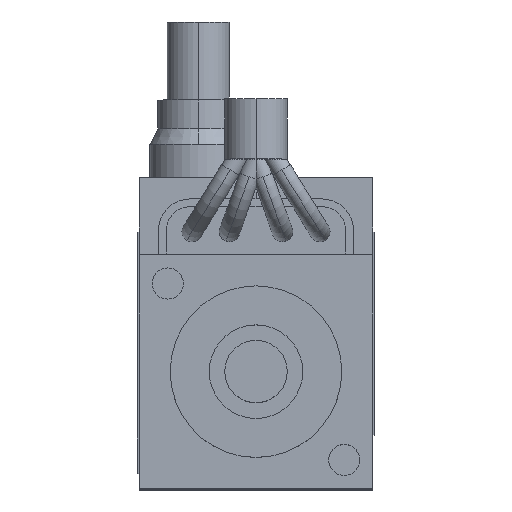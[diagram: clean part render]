
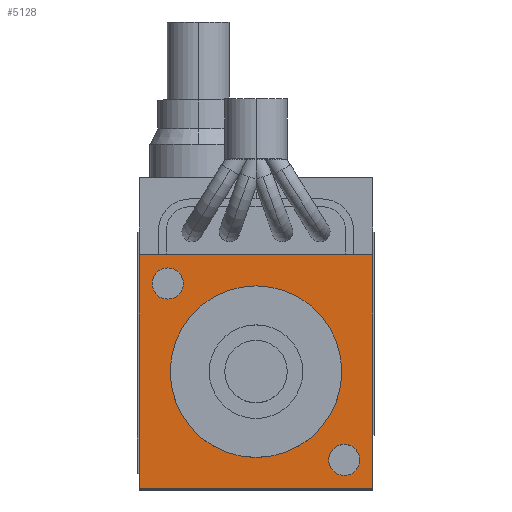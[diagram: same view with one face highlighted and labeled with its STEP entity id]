
A CAD part, top view. The second image highlights one B-rep face of the part: STEP entity #5128.
In plain terms, the highlighted planar face has unit normal (0, 0, 1).
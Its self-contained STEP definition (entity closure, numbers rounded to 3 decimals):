
#2411 = CARTESIAN_POINT ( 'NONE',  ( 6.657, -5.657, 0. ) ) ;
#2412 = DIRECTION ( 'NONE',  ( -1., 0., 0. ) ) ;
#2413 = DIRECTION ( 'NONE',  ( 0., 0., 1. ) ) ;
#2414 = CARTESIAN_POINT ( 'NONE',  ( 5.657, -5.657, 0. ) ) ;
#2415 = AXIS2_PLACEMENT_3D ( 'NONE', #2414, #2413, #2412 ) ;
#2416 = CIRCLE ( 'NONE', #2415, 1. ) ;
#2417 = CARTESIAN_POINT ( 'NONE',  ( 4.657, -5.657, 0. ) ) ;
#2454 = CARTESIAN_POINT ( 'NONE',  ( -6.657, 5.657, 0. ) ) ;
#2534 = CARTESIAN_POINT ( 'NONE',  ( 0., 5.5, 0. ) ) ;
#2535 = DIRECTION ( 'NONE',  ( 1., 0., 0. ) ) ;
#2536 = DIRECTION ( 'NONE',  ( 0., 0., 1. ) ) ;
#2537 = CARTESIAN_POINT ( 'NONE',  ( 0., 0., 0. ) ) ;
#2538 = AXIS2_PLACEMENT_3D ( 'NONE', #2537, #2536, #2535 ) ;
#2539 = CIRCLE ( 'NONE', #2538, 5.5 ) ;
#2540 = CARTESIAN_POINT ( 'NONE',  ( 0., -5.5, 0. ) ) ;
#2558 = CARTESIAN_POINT ( 'NONE',  ( -4.657, 5.657, 0. ) ) ;
#2559 = DIRECTION ( 'NONE',  ( 1., 0., 0. ) ) ;
#2560 = DIRECTION ( 'NONE',  ( 0., 0., 1. ) ) ;
#2561 = AXIS2_PLACEMENT_3D ( 'NONE', #2568, #2560, #2559 ) ;
#2562 = CIRCLE ( 'NONE', #2561, 1. ) ;
#2568 = CARTESIAN_POINT ( 'NONE',  ( -5.657, 5.657, 0. ) ) ;
#2661 = CARTESIAN_POINT ( 'NONE',  ( -7.5, 7.5, 0. ) ) ;
#2662 = DIRECTION ( 'NONE',  ( 0., -1., 0. ) ) ;
#2663 = VECTOR ( 'NONE', #2662, 1000. ) ;
#2664 = CARTESIAN_POINT ( 'NONE',  ( -7.5, 7.5, 0. ) ) ;
#2665 = LINE ( 'NONE', #2664, #2663 ) ;
#2666 = CARTESIAN_POINT ( 'NONE',  ( -7.5, -7.5, 0. ) ) ;
#3314 = CARTESIAN_POINT ( 'NONE',  ( 7.5, 7.5, 0. ) ) ;
#3315 = DIRECTION ( 'NONE',  ( -1., 0., 0. ) ) ;
#3316 = VECTOR ( 'NONE', #3315, 1000. ) ;
#3317 = CARTESIAN_POINT ( 'NONE',  ( -7.5, 7.5, 0. ) ) ;
#3318 = LINE ( 'NONE', #3317, #3316 ) ;
#3675 = DIRECTION ( 'NONE',  ( 1., 0., 0. ) ) ;
#3676 = VECTOR ( 'NONE', #3675, 1000. ) ;
#3677 = CARTESIAN_POINT ( 'NONE',  ( -7.5, -7.5, 0. ) ) ;
#3678 = LINE ( 'NONE', #3677, #3676 ) ;
#3720 = DIRECTION ( 'NONE',  ( 0., 0., 1. ) ) ;
#3721 = CARTESIAN_POINT ( 'NONE',  ( 0., 0., 0. ) ) ;
#3722 = AXIS2_PLACEMENT_3D ( 'NONE', #3721, #3720, #3784 ) ;
#3723 = CIRCLE ( 'NONE', #3722, 5.5 ) ;
#3724 = DIRECTION ( 'NONE',  ( 1., 0., 0. ) ) ;
#3725 = DIRECTION ( 'NONE',  ( 0., 0., 1. ) ) ;
#3726 = CARTESIAN_POINT ( 'NONE',  ( -5.657, 5.657, 0. ) ) ;
#3727 = AXIS2_PLACEMENT_3D ( 'NONE', #3726, #3725, #3724 ) ;
#3728 = CIRCLE ( 'NONE', #3727, 1. ) ;
#3729 = DIRECTION ( 'NONE',  ( -1., 0., 0. ) ) ;
#3730 = DIRECTION ( 'NONE',  ( 0., 0., 1. ) ) ;
#3731 = CARTESIAN_POINT ( 'NONE',  ( 5.657, -5.657, 0. ) ) ;
#3732 = AXIS2_PLACEMENT_3D ( 'NONE', #3731, #3730, #3729 ) ;
#3733 = CIRCLE ( 'NONE', #3732, 1. ) ;
#3734 = DIRECTION ( 'NONE',  ( 1., 0., 0. ) ) ;
#3735 = DIRECTION ( 'NONE',  ( 0., 0., 1. ) ) ;
#3736 = CARTESIAN_POINT ( 'NONE',  ( -7.5, -7.5, 0. ) ) ;
#3737 = AXIS2_PLACEMENT_3D ( 'NONE', #3736, #3735, #3734 ) ;
#3738 = PLANE ( 'NONE',  #3737 ) ;
#3739 = FACE_OUTER_BOUND ( 'NONE', #5141, .T. ) ;
#3740 = FACE_BOUND ( 'NONE', #5137, .T. ) ;
#3741 = FACE_BOUND ( 'NONE', #5133, .T. ) ;
#3742 = FACE_BOUND ( 'NONE', #5129, .T. ) ;
#3779 = CARTESIAN_POINT ( 'NONE',  ( 7.5, -7.5, 0. ) ) ;
#3780 = DIRECTION ( 'NONE',  ( 0., 1., 0. ) ) ;
#3781 = VECTOR ( 'NONE', #3780, 1000. ) ;
#3782 = CARTESIAN_POINT ( 'NONE',  ( 7.5, 7.5, 0. ) ) ;
#3783 = LINE ( 'NONE', #3782, #3781 ) ;
#3784 = DIRECTION ( 'NONE',  ( 1., 0., 0. ) ) ;
#4400 = VERTEX_POINT ( 'NONE', #2417 ) ;
#4402 = EDGE_CURVE ( 'NONE', #4400, #4403, #2416, .T. ) ;
#4403 = VERTEX_POINT ( 'NONE', #2411 ) ;
#4414 = VERTEX_POINT ( 'NONE', #2454 ) ;
#4451 = VERTEX_POINT ( 'NONE', #2540 ) ;
#4453 = EDGE_CURVE ( 'NONE', #4451, #4454, #2539, .T. ) ;
#4454 = VERTEX_POINT ( 'NONE', #2534 ) ;
#4471 = EDGE_CURVE ( 'NONE', #4414, #4472, #2562, .T. ) ;
#4472 = VERTEX_POINT ( 'NONE', #2558 ) ;
#4522 = VERTEX_POINT ( 'NONE', #2666 ) ;
#4524 = EDGE_CURVE ( 'NONE', #4525, #4522, #2665, .T. ) ;
#4525 = VERTEX_POINT ( 'NONE', #2661 ) ;
#4878 = EDGE_CURVE ( 'NONE', #4879, #4525, #3318, .T. ) ;
#4879 = VERTEX_POINT ( 'NONE', #3314 ) ;
#5076 = EDGE_CURVE ( 'NONE', #4522, #5145, #3678, .T. ) ;
#5116 = ORIENTED_EDGE ( 'NONE', *, *, #4524, .T. ) ;
#5117 = ORIENTED_EDGE ( 'NONE', *, *, #5076, .T. ) ;
#5118 = ORIENTED_EDGE ( 'NONE', *, *, #5144, .T. ) ;
#5119 = ORIENTED_EDGE ( 'NONE', *, *, #4878, .T. ) ;
#5128 = ADVANCED_FACE ( 'NONE', ( #3742, #3741, #3740, #3739 ), #3738, .T. ) ;
#5129 = EDGE_LOOP ( 'NONE', ( #5130, #5132 ) ) ;
#5130 = ORIENTED_EDGE ( 'NONE', *, *, #5131, .F. ) ;
#5131 = EDGE_CURVE ( 'NONE', #4403, #4400, #3733, .T. ) ;
#5132 = ORIENTED_EDGE ( 'NONE', *, *, #4402, .F. ) ;
#5133 = EDGE_LOOP ( 'NONE', ( #5134, #5136 ) ) ;
#5134 = ORIENTED_EDGE ( 'NONE', *, *, #5135, .F. ) ;
#5135 = EDGE_CURVE ( 'NONE', #4472, #4414, #3728, .T. ) ;
#5136 = ORIENTED_EDGE ( 'NONE', *, *, #4471, .F. ) ;
#5137 = EDGE_LOOP ( 'NONE', ( #5138, #5140 ) ) ;
#5138 = ORIENTED_EDGE ( 'NONE', *, *, #5139, .F. ) ;
#5139 = EDGE_CURVE ( 'NONE', #4454, #4451, #3723, .T. ) ;
#5140 = ORIENTED_EDGE ( 'NONE', *, *, #4453, .F. ) ;
#5141 = EDGE_LOOP ( 'NONE', ( #5116, #5117, #5118, #5119 ) ) ;
#5144 = EDGE_CURVE ( 'NONE', #5145, #4879, #3783, .T. ) ;
#5145 = VERTEX_POINT ( 'NONE', #3779 ) ;
